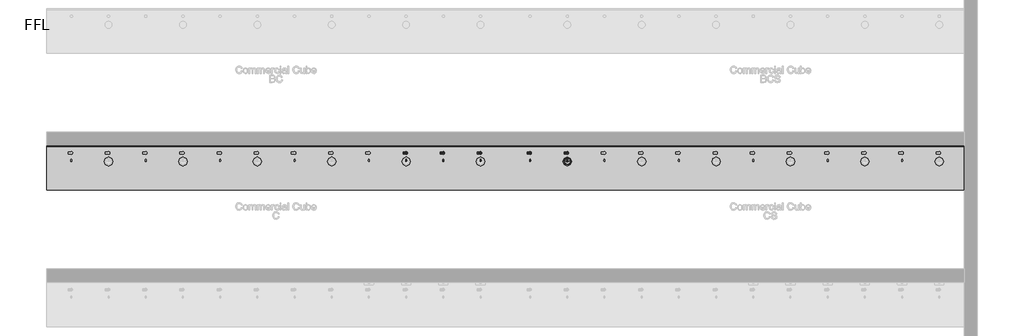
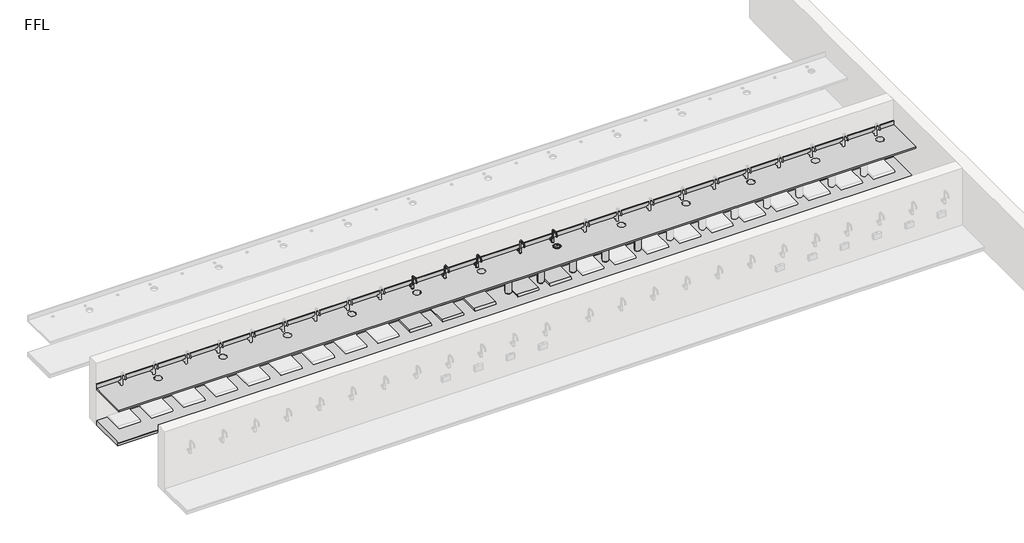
# One storey, part 4 of 14: 21 flow terminals, 2 furniture elements.
"""IFC4 building model written with IfcOpenShell, lengths in millimetres."""

from ifc_helpers import new_model, si_unit, frame, origin, place, context, project, spatial, polyline, circle_curve, transform, mapped, element, save
from ifc_brep_helpers import plane_surface, revolved_surface, advanced_brep
from components import flow_terminal_100_people_nickel_19c471c0, bright_chrome_cb32e6d9, bright_chrome_743c02cf, co2_gas_cylinder_20234e14, bcs_and_bc_6de74493, generic_plinth_900mm_f287d53f

model = new_model("IFC4")

# Units and contexts
model_context = context("Model", 3, world=origin())
ifc_project = project(units=[si_unit("LENGTHUNIT", "METRE", prefix="MILLI")], contexts=[model_context])

# Site, building, storey
site = spatial("IfcSite", under=ifc_project)
building = spatial("IfcBuilding", under=site)
storey = spatial("IfcBuildingStorey", under=building, Name="FFL", Elevation=0.0)

# Flow terminals
placement = place(None, origin())
flow_terminal_100_people_nickel_shape = flow_terminal_100_people_nickel_19c471c0(model_context)
element("IfcFlowTerminal", 1, ObjectType="PlumFixt_Zip Commercial_Cube_CS : 100 People - Bright Chrome", at=placement, inside=storey, context=model_context, shape_type="MappedRepresentation", body=[
    mapped(flow_terminal_100_people_nickel_shape, transform((2779.2647071, 2062.7393304, 0.0), x_axis=(1.0, 0.0, 0.0), y_axis=(0.0, 1.0, 0.0), z_axis=(0.0, 0.0, 1.0))),
])
element("IfcFlowTerminal", 2, ObjectType="PlumFixt_Zip Commercial_Cube_CS : 100 People - Brushed Chrome", at=placement, inside=storey, context=model_context, shape_type="MappedRepresentation", body=[
    mapped(flow_terminal_100_people_nickel_shape, transform((3529.2647071, 2062.7393304, 0.0), x_axis=(1.0, 0.0, 0.0), y_axis=(0.0, 1.0, 0.0), z_axis=(0.0, 0.0, 1.0))),
])
element("IfcFlowTerminal", 3, ObjectType="PlumFixt_Zip Commercial_Cube_C : 100 People - Nickel", at=placement, inside=storey, context=model_context, shape_type="MappedRepresentation", body=[
    mapped(flow_terminal_100_people_nickel_shape, transform((279.2647071, 2062.7393304, 0.0), x_axis=(1.0, 0.0, 0.0), y_axis=(0.0, 1.0, 0.0), z_axis=(0.0, 0.0, 1.0))),
])
element("IfcFlowTerminal", 4, ObjectType="PlumFixt_Zip Commercial_Cube_C : 100 People - Platinum", at=placement, inside=storey, context=model_context, shape_type="MappedRepresentation", body=[
    mapped(flow_terminal_100_people_nickel_shape, transform((1029.2647071, 2062.7393304, 0.0), x_axis=(1.0, 0.0, 0.0), y_axis=(0.0, 1.0, 0.0), z_axis=(0.0, 0.0, 1.0))),
])
element("IfcFlowTerminal", 5, ObjectType="PlumFixt_Zip Commercial_Cube_C : 100 People - Rose Gold", at=placement, inside=storey, context=model_context, shape_type="MappedRepresentation", body=[
    mapped(flow_terminal_100_people_nickel_shape, transform((1779.2647071, 2062.7393304, 0.0), x_axis=(1.0, 0.0, 0.0), y_axis=(0.0, 1.0, 0.0), z_axis=(0.0, 0.0, 1.0))),
])
bright_chrome_shape = bright_chrome_cb32e6d9(model_context)
element("IfcFlowTerminal", 6, ObjectType="z_PlumFixt_Zip_Cube : Bright Chrome", at=placement, inside=storey, context=model_context, shape_type="MappedRepresentation", body=[
    mapped(bright_chrome_shape, transform((2762.2647071, 2090.7393304, 900.0), x_axis=(1.0000000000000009, 0.0, 0.0), y_axis=(0.0, 1.0000000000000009, 0.0), z_axis=(0.0, 0.0, 1.0))),
])
bright_chrome_2_shape = bright_chrome_743c02cf(model_context)
element("IfcFlowTerminal", 7, ObjectType="z_PlumFixt_Zip_Font : Brushed Chrome", at=placement, inside=storey, context=model_context, shape_type="MappedRepresentation", body=[
    mapped(bright_chrome_2_shape, transform((3529.2647071, 1991.2393304, 900.0), x_axis=(1.0000000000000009, 0.0, 0.0), y_axis=(0.0, 1.0000000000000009, 0.0), z_axis=(0.0, 0.0, 1.0))),
])
element("IfcFlowTerminal", 8, ObjectType="z_PlumFixt_Zip_Cube : Brushed Chrome", at=placement, inside=storey, context=model_context, shape_type="MappedRepresentation", body=[
    mapped(bright_chrome_shape, transform((3512.2647071, 2090.7393304, 900.0), x_axis=(1.0000000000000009, 0.0, 0.0), y_axis=(0.0, 1.0000000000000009, 0.0), z_axis=(0.0, 0.0, 1.0))),
])
co2_gas_cylinder_shape = co2_gas_cylinder_20234e14(model_context)
element("IfcFlowTerminal", 9, ObjectType="z_PlumFixt_Zip_CO2 Gas Cylinder : CO2 Gas Cylinder", at=placement, inside=storey, context=model_context, shape_type="MappedRepresentation", body=[
    mapped(co2_gas_cylinder_shape, transform((2441.2647071, 1983.2393304, 100.0), x_axis=(-1.0, 0.0, 0.0), y_axis=(0.0, -1.0, 0.0), z_axis=(0.0, 0.0, 1.0))),
])
element("IfcFlowTerminal", 10, ObjectType="z_PlumFixt_Zip_CO2 Gas Cylinder : CO2 Gas Cylinder", at=placement, inside=storey, context=model_context, shape_type="MappedRepresentation", body=[
    mapped(co2_gas_cylinder_shape, transform((3191.2647071, 1983.2393304, 100.0), x_axis=(-1.0, 0.0, 0.0), y_axis=(0.0, -1.0, 0.0), z_axis=(0.0, 0.0, 1.0))),
])
element("IfcFlowTerminal", 11, ObjectType="z_PlumFixt_Zip_CO2 Gas Cylinder : CO2 Gas Cylinder", at=placement, inside=storey, context=model_context, shape_type="MappedRepresentation", body=[
    mapped(co2_gas_cylinder_shape, transform((3941.2647071, 1983.2393304, 100.0), x_axis=(-1.0, 0.0, 0.0), y_axis=(0.0, -1.0, 0.0), z_axis=(0.0, 0.0, 1.0))),
])
element("IfcFlowTerminal", 12, ObjectType="z_PlumFixt_Zip_CO2 Gas Cylinder : CO2 Gas Cylinder", at=placement, inside=storey, context=model_context, shape_type="MappedRepresentation", body=[
    mapped(co2_gas_cylinder_shape, transform((4691.2647071, 1983.2393304, 100.0), x_axis=(-1.0, 0.0, 0.0), y_axis=(0.0, -1.0, 0.0), z_axis=(0.0, 0.0, 1.0))),
])
element("IfcFlowTerminal", 13, ObjectType="z_PlumFixt_Zip_CO2 Gas Cylinder : CO2 Gas Cylinder", at=placement, inside=storey, context=model_context, shape_type="MappedRepresentation", body=[
    mapped(co2_gas_cylinder_shape, transform((5441.2647071, 1983.2393304, 100.0), x_axis=(-1.0, 0.0, 0.0), y_axis=(0.0, -1.0, 0.0), z_axis=(0.0, 0.0, 1.0))),
])
bcs_and_bc_shape = bcs_and_bc_6de74493(model_context)
element("IfcFlowTerminal", 14, ObjectType="z_PlumFixt_Zip_Vent Tray : CS and C", at=placement, inside=storey, context=model_context, shape_type="MappedRepresentation", body=[
    mapped(bcs_and_bc_shape, transform((279.2647071, 2185.7393304, 100.0), x_axis=(1.0, 0.0, 0.0), y_axis=(0.0, 1.0, 0.0), z_axis=(0.0, 0.0, 1.0))),
])
element("IfcFlowTerminal", 15, ObjectType="z_PlumFixt_Zip_Vent Tray : CS and C", at=placement, inside=storey, context=model_context, shape_type="MappedRepresentation", body=[
    mapped(bcs_and_bc_shape, transform((1029.2647071, 2185.7393304, 100.0), x_axis=(1.0, 0.0, 0.0), y_axis=(0.0, 1.0, 0.0), z_axis=(0.0, 0.0, 1.0))),
])
element("IfcFlowTerminal", 16, ObjectType="z_PlumFixt_Zip_Vent Tray : CS and C", at=placement, inside=storey, context=model_context, shape_type="MappedRepresentation", body=[
    mapped(bcs_and_bc_shape, transform((1779.2647071, 2185.7393304, 100.0), x_axis=(1.0, 0.0, 0.0), y_axis=(0.0, 1.0, 0.0), z_axis=(0.0, 0.0, 1.0))),
])
element("IfcFlowTerminal", 17, ObjectType="z_PlumFixt_Zip_Vent Tray : CS and C", at=placement, inside=storey, context=model_context, shape_type="MappedRepresentation", body=[
    mapped(bcs_and_bc_shape, transform((2779.2647071, 2185.7393304, 100.0), x_axis=(1.0, 0.0, 0.0), y_axis=(0.0, 1.0, 0.0), z_axis=(0.0, 0.0, 1.0))),
])
element("IfcFlowTerminal", 18, ObjectType="z_PlumFixt_Zip_Vent Tray : CS and C", at=placement, inside=storey, context=model_context, shape_type="MappedRepresentation", body=[
    mapped(bcs_and_bc_shape, transform((3529.2647071, 2185.7393304, 100.0), x_axis=(1.0, 0.0, 0.0), y_axis=(0.0, 1.0, 0.0), z_axis=(0.0, 0.0, 1.0))),
])
element("IfcFlowTerminal", 19, ObjectType="z_PlumFixt_Zip_Cube : Nickel", at=placement, inside=storey, context=model_context, shape_type="MappedRepresentation", body=[
    mapped(bright_chrome_shape, transform((262.2647071, 2090.7393304, 900.0), x_axis=(1.0000000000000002, 0.0, 0.0), y_axis=(0.0, 1.0000000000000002, 0.0), z_axis=(0.0, 0.0, 1.0))),
])
element("IfcFlowTerminal", 20, ObjectType="z_PlumFixt_Zip_Cube : Platinum", at=placement, inside=storey, context=model_context, shape_type="MappedRepresentation", body=[
    mapped(bright_chrome_shape, transform((1012.2647071, 2090.7393304, 900.0), x_axis=(1.0000000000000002, 0.0, 0.0), y_axis=(0.0, 1.0000000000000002, 0.0), z_axis=(0.0, 0.0, 1.0))),
])
element("IfcFlowTerminal", 21, ObjectType="z_PlumFixt_Zip_Cube : Rose Gold", at=placement, inside=storey, context=model_context, shape_type="MappedRepresentation", body=[
    mapped(bright_chrome_shape, transform((1762.2647071, 2090.7393304, 900.0), x_axis=(1.0000000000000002, 0.0, 0.0), y_axis=(0.0, 1.0000000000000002, 0.0), z_axis=(0.0, 0.0, 1.0))),
])

# Furniture
element("IfcFurniture", 22, ObjectType="Counter Top : 900mm Depth", at=placement, inside=storey, context=model_context, shape_type="AdvancedBrep", body=[
    advanced_brep(
    [(-6969.7352929, 1428.2393304, 900.0), (11530.2647071, 1428.2393304, 900.0), (11530.2647071, 2309.1893304, 900.0), (-6969.7352929, 2309.1893304, 900.0), (-6493.7352929, 2178.2393304, 900.0), (-6445.7352929, 2178.2393304, 900.0), (-5743.7352929, 2178.2393304, 900.0), (-5695.7352929, 2178.2393304, 900.0), (-5787.9352929, 2006.2393304, 900.0), (-5651.5352929, 2006.2393304, 900.0), (-4993.7352929, 2178.2393304, 900.0), (-4945.7352929, 2178.2393304, 900.0), (-4243.7352929, 2178.2393304, 900.0), (-4195.7352929, 2178.2393304, 900.0), (-4287.9352929, 2006.2393304, 900.0), (-4151.5352929, 2006.2393304, 900.0), (-3493.7352929, 2178.2393304, 900.0), (-3445.7352929, 2178.2393304, 900.0), (-2743.7352929, 2178.2393304, 900.0), (-2695.7352929, 2178.2393304, 900.0), (-2787.9352929, 2006.2393304, 900.0), (-2651.5352929, 2006.2393304, 900.0), (-1993.7352929, 2178.2393304, 900.0), (-1945.7352929, 2178.2393304, 900.0), (-1243.7352929, 2178.2393304, 900.0), (-1195.7352929, 2178.2393304, 900.0), (-1287.9352929, 2006.2393304, 900.0), (-1151.5352929, 2006.2393304, 900.0), (-493.7352929, 2178.2393304, 900.0), (-445.7352929, 2178.2393304, 900.0), (256.2647071, 2178.2393304, 900.0), (304.2647071, 2178.2393304, 900.0), (212.0647071, 2006.2393304, 900.0), (348.4647071, 2006.2393304, 900.0), (1006.2647071, 2178.2393304, 900.0), (1054.2647071, 2178.2393304, 900.0), (1756.2647071, 2178.2393304, 900.0), (1804.2647071, 2178.2393304, 900.0), (1712.0647071, 2006.2393304, 900.0), (1848.4647071, 2006.2393304, 900.0), (2756.2647071, 2178.2393304, 900.0), (2804.2647071, 2178.2393304, 900.0), (3506.2647071, 2178.2393304, 900.0), (3554.2647071, 2178.2393304, 900.0), (3462.0647071, 2006.2393304, 900.0), (3598.4647071, 2006.2393304, 900.0), (4256.2647071, 2178.2393304, 900.0), (4304.2647071, 2178.2393304, 900.0), (5006.2647071, 2178.2393304, 900.0), (5054.2647071, 2178.2393304, 900.0), (4962.0647071, 2006.2393304, 900.0), (5098.4647071, 2006.2393304, 900.0), (5756.2647071, 2178.2393304, 900.0), (5804.2647071, 2178.2393304, 900.0), (6506.2647071, 2178.2393304, 900.0), (6554.2647071, 2178.2393304, 900.0), (6462.0647071, 2006.2393304, 900.0), (6598.4647071, 2006.2393304, 900.0), (7256.2647071, 2178.2393304, 900.0), (7304.2647071, 2178.2393304, 900.0), (8006.2647071, 2178.2393304, 900.0), (8054.2647071, 2178.2393304, 900.0), (7962.0647071, 2006.2393304, 900.0), (8098.4647071, 2006.2393304, 900.0), (8756.2647071, 2178.2393304, 900.0), (8804.2647071, 2178.2393304, 900.0), (9506.2647071, 2178.2393304, 900.0), (9554.2647071, 2178.2393304, 900.0), (9462.0647071, 2006.2393304, 900.0), (9598.4647071, 2006.2393304, 900.0), (10256.2647071, 2178.2393304, 900.0), (10304.2647071, 2178.2393304, 900.0), (11006.2647071, 2178.2393304, 900.0), (11054.2647071, 2178.2393304, 900.0), (10962.0647071, 2006.2393304, 900.0), (11098.4647071, 2006.2393304, 900.0), (11530.2647071, 2328.2393304, 860.0), (11530.2647071, 1428.2393304, 860.0), (-6969.7352929, 1428.2393304, 860.0), (-6969.7352929, 2328.2393304, 860.0), (-6445.7352929, 2178.2393304, 860.0), (-6493.7352929, 2178.2393304, 860.0), (-5695.7352929, 2178.2393304, 860.0), (-5743.7352929, 2178.2393304, 860.0), (-5651.5352929, 2006.2393304, 860.0), (-5787.9352929, 2006.2393304, 860.0), (-4945.7352929, 2178.2393304, 860.0), (-4993.7352929, 2178.2393304, 860.0), (-4195.7352929, 2178.2393304, 860.0), (-4243.7352929, 2178.2393304, 860.0), (-4151.5352929, 2006.2393304, 860.0), (-4287.9352929, 2006.2393304, 860.0), (-3445.7352929, 2178.2393304, 860.0), (-3493.7352929, 2178.2393304, 860.0), (-2695.7352929, 2178.2393304, 860.0), (-2743.7352929, 2178.2393304, 860.0), (-2651.5352929, 2006.2393304, 860.0), (-2787.9352929, 2006.2393304, 860.0), (-1945.7352929, 2178.2393304, 860.0), (-1993.7352929, 2178.2393304, 860.0), (-1195.7352929, 2178.2393304, 860.0), (-1243.7352929, 2178.2393304, 860.0), (-1151.5352929, 2006.2393304, 860.0), (-1287.9352929, 2006.2393304, 860.0), (-445.7352929, 2178.2393304, 860.0), (-493.7352929, 2178.2393304, 860.0), (304.2647071, 2178.2393304, 860.0), (256.2647071, 2178.2393304, 860.0), (348.4647071, 2006.2393304, 860.0), (212.0647071, 2006.2393304, 860.0), (1054.2647071, 2178.2393304, 860.0), (1006.2647071, 2178.2393304, 860.0), (1804.2647071, 2178.2393304, 860.0), (1756.2647071, 2178.2393304, 860.0), (1848.4647071, 2006.2393304, 860.0), (1712.0647071, 2006.2393304, 860.0), (2804.2647071, 2178.2393304, 860.0), (2756.2647071, 2178.2393304, 860.0), (3554.2647071, 2178.2393304, 860.0), (3506.2647071, 2178.2393304, 860.0), (3598.4647071, 2006.2393304, 860.0), (3462.0647071, 2006.2393304, 860.0), (4304.2647071, 2178.2393304, 860.0), (4256.2647071, 2178.2393304, 860.0), (5054.2647071, 2178.2393304, 860.0), (5006.2647071, 2178.2393304, 860.0), (5098.4647071, 2006.2393304, 860.0), (4962.0647071, 2006.2393304, 860.0), (5804.2647071, 2178.2393304, 860.0), (5756.2647071, 2178.2393304, 860.0), (6554.2647071, 2178.2393304, 860.0), (6506.2647071, 2178.2393304, 860.0), (6598.4647071, 2006.2393304, 860.0), (6462.0647071, 2006.2393304, 860.0), (7304.2647071, 2178.2393304, 860.0), (7256.2647071, 2178.2393304, 860.0), (8054.2647071, 2178.2393304, 860.0), (8006.2647071, 2178.2393304, 860.0), (8098.4647071, 2006.2393304, 860.0), (7962.0647071, 2006.2393304, 860.0), (8804.2647071, 2178.2393304, 860.0), (8756.2647071, 2178.2393304, 860.0), (9554.2647071, 2178.2393304, 860.0), (9506.2647071, 2178.2393304, 860.0), (9598.4647071, 2006.2393304, 860.0), (9462.0647071, 2006.2393304, 860.0), (10304.2647071, 2178.2393304, 860.0), (10256.2647071, 2178.2393304, 860.0), (11054.2647071, 2178.2393304, 860.0), (11006.2647071, 2178.2393304, 860.0), (11098.4647071, 2006.2393304, 860.0), (10962.0647071, 2006.2393304, 860.0), (-6969.7352929, 2328.2393304, 1001.6), (11530.2647071, 2328.2393304, 1001.6), (-6969.7352929, 2309.1893304, 1001.6), (11530.2647071, 2309.1893304, 1001.6)],
    [
        (0, 1),
        (1, 2),
        (2, 3),
        (3, 0),
        (4, 5, circle_curve(frame((-6469.7352929, 2178.2393304, 900.0), z_axis=(0.0, 0.0, -1.0), x_axis=(-1.0000000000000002, 0.0, 0.0)), 24.0)),
        (5, 4, circle_curve(frame((-6469.7352929, 2178.2393304, 900.0), z_axis=(0.0, 0.0, -1.0), x_axis=(-1.0000000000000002, 0.0, 0.0)), 24.0)),
        (6, 7, circle_curve(frame((-5719.7352929, 2178.2393304, 900.0), z_axis=(0.0, 0.0, -1.0), x_axis=(-1.0000000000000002, 0.0, 0.0)), 24.0)),
        (7, 6, circle_curve(frame((-5719.7352929, 2178.2393304, 900.0), z_axis=(0.0, 0.0, -1.0), x_axis=(-1.0000000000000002, 0.0, 0.0)), 24.0)),
        (8, 9, circle_curve(frame((-5719.7352929, 2006.2393304, 900.0), z_axis=(0.0, 0.0, -1.0), x_axis=(-1.0000000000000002, 0.0, 0.0)), 68.2)),
        (9, 8, circle_curve(frame((-5719.7352929, 2006.2393304, 900.0), z_axis=(0.0, 0.0, -1.0), x_axis=(-1.0000000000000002, 0.0, 0.0)), 68.2)),
        (10, 11, circle_curve(frame((-4969.7352929, 2178.2393304, 900.0), z_axis=(0.0, 0.0, -1.0), x_axis=(-1.0000000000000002, 0.0, 0.0)), 24.0)),
        (11, 10, circle_curve(frame((-4969.7352929, 2178.2393304, 900.0), z_axis=(0.0, 0.0, -1.0), x_axis=(-1.0000000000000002, 0.0, 0.0)), 24.0)),
        (12, 13, circle_curve(frame((-4219.7352929, 2178.2393304, 900.0), z_axis=(0.0, 0.0, -1.0), x_axis=(-1.0000000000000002, 0.0, 0.0)), 24.0)),
        (13, 12, circle_curve(frame((-4219.7352929, 2178.2393304, 900.0), z_axis=(0.0, 0.0, -1.0), x_axis=(-1.0000000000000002, 0.0, 0.0)), 24.0)),
        (14, 15, circle_curve(frame((-4219.7352929, 2006.2393304, 900.0), z_axis=(0.0, 0.0, -1.0), x_axis=(-1.0000000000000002, 0.0, 0.0)), 68.2)),
        (15, 14, circle_curve(frame((-4219.7352929, 2006.2393304, 900.0), z_axis=(0.0, 0.0, -1.0), x_axis=(-1.0000000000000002, 0.0, 0.0)), 68.2)),
        (16, 17, circle_curve(frame((-3469.7352929, 2178.2393304, 900.0), z_axis=(0.0, 0.0, -1.0), x_axis=(-1.0000000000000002, 0.0, 0.0)), 24.0)),
        (17, 16, circle_curve(frame((-3469.7352929, 2178.2393304, 900.0), z_axis=(0.0, 0.0, -1.0), x_axis=(-1.0000000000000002, 0.0, 0.0)), 24.0)),
        (18, 19, circle_curve(frame((-2719.7352929, 2178.2393304, 900.0), z_axis=(0.0, 0.0, -1.0), x_axis=(-1.0000000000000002, 0.0, 0.0)), 24.0)),
        (19, 18, circle_curve(frame((-2719.7352929, 2178.2393304, 900.0), z_axis=(0.0, 0.0, -1.0), x_axis=(-1.0000000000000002, 0.0, 0.0)), 24.0)),
        (20, 21, circle_curve(frame((-2719.7352929, 2006.2393304, 900.0), z_axis=(0.0, 0.0, -1.0), x_axis=(-1.0000000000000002, 0.0, 0.0)), 68.2)),
        (21, 20, circle_curve(frame((-2719.7352929, 2006.2393304, 900.0), z_axis=(0.0, 0.0, -1.0), x_axis=(-1.0000000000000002, 0.0, 0.0)), 68.2)),
        (22, 23, circle_curve(frame((-1969.7352929, 2178.2393304, 900.0), z_axis=(0.0, 0.0, -1.0), x_axis=(-1.0000000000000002, 0.0, 0.0)), 24.0)),
        (23, 22, circle_curve(frame((-1969.7352929, 2178.2393304, 900.0), z_axis=(0.0, 0.0, -1.0), x_axis=(-1.0000000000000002, 0.0, 0.0)), 24.0)),
        (24, 25, circle_curve(frame((-1219.7352929, 2178.2393304, 900.0), z_axis=(0.0, 0.0, -1.0), x_axis=(-1.0000000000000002, 0.0, 0.0)), 24.0)),
        (25, 24, circle_curve(frame((-1219.7352929, 2178.2393304, 900.0), z_axis=(0.0, 0.0, -1.0), x_axis=(-1.0000000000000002, 0.0, 0.0)), 24.0)),
        (26, 27, circle_curve(frame((-1219.7352929, 2006.2393304, 900.0), z_axis=(0.0, 0.0, -1.0), x_axis=(-1.0000000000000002, 0.0, 0.0)), 68.2)),
        (27, 26, circle_curve(frame((-1219.7352929, 2006.2393304, 900.0), z_axis=(0.0, 0.0, -1.0), x_axis=(-1.0000000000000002, 0.0, 0.0)), 68.2)),
        (28, 29, circle_curve(frame((-469.7352929, 2178.2393304, 900.0), z_axis=(0.0, 0.0, -1.0), x_axis=(-1.0000000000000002, 0.0, 0.0)), 24.0)),
        (29, 28, circle_curve(frame((-469.7352929, 2178.2393304, 900.0), z_axis=(0.0, 0.0, -1.0), x_axis=(-1.0000000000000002, 0.0, 0.0)), 24.0)),
        (30, 31, circle_curve(frame((280.2647071, 2178.2393304, 900.0), z_axis=(0.0, 0.0, -1.0), x_axis=(-1.0000000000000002, 0.0, 0.0)), 24.0)),
        (31, 30, circle_curve(frame((280.2647071, 2178.2393304, 900.0), z_axis=(0.0, 0.0, -1.0), x_axis=(-1.0000000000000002, 0.0, 0.0)), 24.0)),
        (32, 33, circle_curve(frame((280.2647071, 2006.2393304, 900.0), z_axis=(0.0, 0.0, -1.0), x_axis=(-1.0000000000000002, 0.0, 0.0)), 68.2)),
        (33, 32, circle_curve(frame((280.2647071, 2006.2393304, 900.0), z_axis=(0.0, 0.0, -1.0), x_axis=(-1.0000000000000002, 0.0, 0.0)), 68.2)),
        (34, 35, circle_curve(frame((1030.2647071, 2178.2393304, 900.0), z_axis=(0.0, 0.0, -1.0), x_axis=(-1.0000000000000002, 0.0, 0.0)), 24.0)),
        (35, 34, circle_curve(frame((1030.2647071, 2178.2393304, 900.0), z_axis=(0.0, 0.0, -1.0), x_axis=(-1.0000000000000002, 0.0, 0.0)), 24.0)),
        (36, 37, circle_curve(frame((1780.2647071, 2178.2393304, 900.0), z_axis=(0.0, 0.0, -1.0), x_axis=(-1.0000000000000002, 0.0, 0.0)), 24.0)),
        (37, 36, circle_curve(frame((1780.2647071, 2178.2393304, 900.0), z_axis=(0.0, 0.0, -1.0), x_axis=(-1.0000000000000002, 0.0, 0.0)), 24.0)),
        (38, 39, circle_curve(frame((1780.2647071, 2006.2393304, 900.0), z_axis=(0.0, 0.0, -1.0), x_axis=(-1.0000000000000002, 0.0, 0.0)), 68.2)),
        (39, 38, circle_curve(frame((1780.2647071, 2006.2393304, 900.0), z_axis=(0.0, 0.0, -1.0), x_axis=(-1.0000000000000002, 0.0, 0.0)), 68.2)),
        (40, 41, circle_curve(frame((2780.2647071, 2178.2393304, 900.0), z_axis=(0.0, 0.0, -1.0), x_axis=(-1.0000000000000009, 0.0, 0.0)), 24.0)),
        (41, 40, circle_curve(frame((2780.2647071, 2178.2393304, 900.0), z_axis=(0.0, 0.0, -1.0), x_axis=(-1.0000000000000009, 0.0, 0.0)), 24.0)),
        (42, 43, circle_curve(frame((3530.2647071, 2178.2393304, 900.0), z_axis=(0.0, 0.0, -1.0), x_axis=(-1.0000000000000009, 0.0, 0.0)), 24.0)),
        (43, 42, circle_curve(frame((3530.2647071, 2178.2393304, 900.0), z_axis=(0.0, 0.0, -1.0), x_axis=(-1.0000000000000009, 0.0, 0.0)), 24.0)),
        (44, 45, circle_curve(frame((3530.2647071, 2006.2393304, 900.0), z_axis=(0.0, 0.0, -1.0), x_axis=(-1.0000000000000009, 0.0, 0.0)), 68.2)),
        (45, 44, circle_curve(frame((3530.2647071, 2006.2393304, 900.0), z_axis=(0.0, 0.0, -1.0), x_axis=(-1.0000000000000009, 0.0, 0.0)), 68.2)),
        (46, 47, circle_curve(frame((4280.2647071, 2178.2393304, 900.0), z_axis=(0.0, 0.0, -1.0), x_axis=(-1.0000000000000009, 0.0, 0.0)), 24.0)),
        (47, 46, circle_curve(frame((4280.2647071, 2178.2393304, 900.0), z_axis=(0.0, 0.0, -1.0), x_axis=(-1.0000000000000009, 0.0, 0.0)), 24.0)),
        (48, 49, circle_curve(frame((5030.2647071, 2178.2393304, 900.0), z_axis=(0.0, 0.0, -1.0), x_axis=(-1.0000000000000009, 0.0, 0.0)), 24.0)),
        (49, 48, circle_curve(frame((5030.2647071, 2178.2393304, 900.0), z_axis=(0.0, 0.0, -1.0), x_axis=(-1.0000000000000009, 0.0, 0.0)), 24.0)),
        (50, 51, circle_curve(frame((5030.2647071, 2006.2393304, 900.0), z_axis=(0.0, 0.0, -1.0), x_axis=(-1.0000000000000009, 0.0, 0.0)), 68.2)),
        (51, 50, circle_curve(frame((5030.2647071, 2006.2393304, 900.0), z_axis=(0.0, 0.0, -1.0), x_axis=(-1.0000000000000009, 0.0, 0.0)), 68.2)),
        (52, 53, circle_curve(frame((5780.2647071, 2178.2393304, 900.0), z_axis=(0.0, 0.0, -1.0), x_axis=(-1.0000000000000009, 0.0, 0.0)), 24.0)),
        (53, 52, circle_curve(frame((5780.2647071, 2178.2393304, 900.0), z_axis=(0.0, 0.0, -1.0), x_axis=(-1.0000000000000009, 0.0, 0.0)), 24.0)),
        (54, 55, circle_curve(frame((6530.2647071, 2178.2393304, 900.0), z_axis=(0.0, 0.0, -1.0), x_axis=(-1.0000000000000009, 0.0, 0.0)), 24.0)),
        (55, 54, circle_curve(frame((6530.2647071, 2178.2393304, 900.0), z_axis=(0.0, 0.0, -1.0), x_axis=(-1.0000000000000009, 0.0, 0.0)), 24.0)),
        (56, 57, circle_curve(frame((6530.2647071, 2006.2393304, 900.0), z_axis=(0.0, 0.0, -1.0), x_axis=(-1.0000000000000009, 0.0, 0.0)), 68.2)),
        (57, 56, circle_curve(frame((6530.2647071, 2006.2393304, 900.0), z_axis=(0.0, 0.0, -1.0), x_axis=(-1.0000000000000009, 0.0, 0.0)), 68.2)),
        (58, 59, circle_curve(frame((7280.2647071, 2178.2393304, 900.0), z_axis=(0.0, 0.0, -1.0), x_axis=(-1.0000000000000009, 0.0, 0.0)), 24.0)),
        (59, 58, circle_curve(frame((7280.2647071, 2178.2393304, 900.0), z_axis=(0.0, 0.0, -1.0), x_axis=(-1.0000000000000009, 0.0, 0.0)), 24.0)),
        (60, 61, circle_curve(frame((8030.2647071, 2178.2393304, 900.0), z_axis=(0.0, 0.0, -1.0), x_axis=(-1.0000000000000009, 0.0, 0.0)), 24.0)),
        (61, 60, circle_curve(frame((8030.2647071, 2178.2393304, 900.0), z_axis=(0.0, 0.0, -1.0), x_axis=(-1.0000000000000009, 0.0, 0.0)), 24.0)),
        (62, 63, circle_curve(frame((8030.2647071, 2006.2393304, 900.0), z_axis=(0.0, 0.0, -1.0), x_axis=(-1.0000000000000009, 0.0, 0.0)), 68.2)),
        (63, 62, circle_curve(frame((8030.2647071, 2006.2393304, 900.0), z_axis=(0.0, 0.0, -1.0), x_axis=(-1.0000000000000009, 0.0, 0.0)), 68.2)),
        (64, 65, circle_curve(frame((8780.2647071, 2178.2393304, 900.0), z_axis=(0.0, 0.0, -1.0), x_axis=(-1.0000000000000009, 0.0, 0.0)), 24.0)),
        (65, 64, circle_curve(frame((8780.2647071, 2178.2393304, 900.0), z_axis=(0.0, 0.0, -1.0), x_axis=(-1.0000000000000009, 0.0, 0.0)), 24.0)),
        (66, 67, circle_curve(frame((9530.2647071, 2178.2393304, 900.0), z_axis=(0.0, 0.0, -1.0), x_axis=(-1.0000000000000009, 0.0, 0.0)), 24.0)),
        (67, 66, circle_curve(frame((9530.2647071, 2178.2393304, 900.0), z_axis=(0.0, 0.0, -1.0), x_axis=(-1.0000000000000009, 0.0, 0.0)), 24.0)),
        (68, 69, circle_curve(frame((9530.2647071, 2006.2393304, 900.0), z_axis=(0.0, 0.0, -1.0), x_axis=(-1.0000000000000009, 0.0, 0.0)), 68.2)),
        (69, 68, circle_curve(frame((9530.2647071, 2006.2393304, 900.0), z_axis=(0.0, 0.0, -1.0), x_axis=(-1.0000000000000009, 0.0, 0.0)), 68.2)),
        (70, 71, circle_curve(frame((10280.2647071, 2178.2393304, 900.0), z_axis=(0.0, 0.0, -1.0), x_axis=(-1.0000000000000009, 0.0, 0.0)), 24.0)),
        (71, 70, circle_curve(frame((10280.2647071, 2178.2393304, 900.0), z_axis=(0.0, 0.0, -1.0), x_axis=(-1.0000000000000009, 0.0, 0.0)), 24.0)),
        (72, 73, circle_curve(frame((11030.2647071, 2178.2393304, 900.0), z_axis=(0.0, 0.0, -1.0), x_axis=(-1.0000000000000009, 0.0, 0.0)), 24.0)),
        (73, 72, circle_curve(frame((11030.2647071, 2178.2393304, 900.0), z_axis=(0.0, 0.0, -1.0), x_axis=(-1.0000000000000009, 0.0, 0.0)), 24.0)),
        (74, 75, circle_curve(frame((11030.2647071, 2006.2393304, 900.0), z_axis=(0.0, 0.0, -1.0), x_axis=(-1.0000000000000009, 0.0, 0.0)), 68.2)),
        (75, 74, circle_curve(frame((11030.2647071, 2006.2393304, 900.0), z_axis=(0.0, 0.0, -1.0), x_axis=(-1.0000000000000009, 0.0, 0.0)), 68.2)),
        (76, 77),
        (77, 78),
        (78, 79),
        (79, 76),
        (80, 81, circle_curve(frame((-6469.7352929, 2178.2393304, 860.0), z_axis=(0.0, 0.0, 1.0), x_axis=(-1.0000000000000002, 0.0, 0.0)), 24.0)),
        (81, 80, circle_curve(frame((-6469.7352929, 2178.2393304, 860.0), z_axis=(0.0, 0.0, 1.0), x_axis=(-1.0000000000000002, 0.0, 0.0)), 24.0)),
        (82, 83, circle_curve(frame((-5719.7352929, 2178.2393304, 860.0), z_axis=(0.0, 0.0, 1.0), x_axis=(-1.0000000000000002, 0.0, 0.0)), 24.0)),
        (83, 82, circle_curve(frame((-5719.7352929, 2178.2393304, 860.0), z_axis=(0.0, 0.0, 1.0), x_axis=(-1.0000000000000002, 0.0, 0.0)), 24.0)),
        (84, 85, circle_curve(frame((-5719.7352929, 2006.2393304, 860.0), z_axis=(0.0, 0.0, 1.0), x_axis=(-1.0000000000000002, 0.0, 0.0)), 68.2)),
        (85, 84, circle_curve(frame((-5719.7352929, 2006.2393304, 860.0), z_axis=(0.0, 0.0, 1.0), x_axis=(-1.0000000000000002, 0.0, 0.0)), 68.2)),
        (86, 87, circle_curve(frame((-4969.7352929, 2178.2393304, 860.0), z_axis=(0.0, 0.0, 1.0), x_axis=(-1.0000000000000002, 0.0, 0.0)), 24.0)),
        (87, 86, circle_curve(frame((-4969.7352929, 2178.2393304, 860.0), z_axis=(0.0, 0.0, 1.0), x_axis=(-1.0000000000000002, 0.0, 0.0)), 24.0)),
        (88, 89, circle_curve(frame((-4219.7352929, 2178.2393304, 860.0), z_axis=(0.0, 0.0, 1.0), x_axis=(-1.0000000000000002, 0.0, 0.0)), 24.0)),
        (89, 88, circle_curve(frame((-4219.7352929, 2178.2393304, 860.0), z_axis=(0.0, 0.0, 1.0), x_axis=(-1.0000000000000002, 0.0, 0.0)), 24.0)),
        (90, 91, circle_curve(frame((-4219.7352929, 2006.2393304, 860.0), z_axis=(0.0, 0.0, 1.0), x_axis=(-1.0000000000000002, 0.0, 0.0)), 68.2)),
        (91, 90, circle_curve(frame((-4219.7352929, 2006.2393304, 860.0), z_axis=(0.0, 0.0, 1.0), x_axis=(-1.0000000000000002, 0.0, 0.0)), 68.2)),
        (92, 93, circle_curve(frame((-3469.7352929, 2178.2393304, 860.0), z_axis=(0.0, 0.0, 1.0), x_axis=(-1.0000000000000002, 0.0, 0.0)), 24.0)),
        (93, 92, circle_curve(frame((-3469.7352929, 2178.2393304, 860.0), z_axis=(0.0, 0.0, 1.0), x_axis=(-1.0000000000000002, 0.0, 0.0)), 24.0)),
        (94, 95, circle_curve(frame((-2719.7352929, 2178.2393304, 860.0), z_axis=(0.0, 0.0, 1.0), x_axis=(-1.0000000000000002, 0.0, 0.0)), 24.0)),
        (95, 94, circle_curve(frame((-2719.7352929, 2178.2393304, 860.0), z_axis=(0.0, 0.0, 1.0), x_axis=(-1.0000000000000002, 0.0, 0.0)), 24.0)),
        (96, 97, circle_curve(frame((-2719.7352929, 2006.2393304, 860.0), z_axis=(0.0, 0.0, 1.0), x_axis=(-1.0000000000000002, 0.0, 0.0)), 68.2)),
        (97, 96, circle_curve(frame((-2719.7352929, 2006.2393304, 860.0), z_axis=(0.0, 0.0, 1.0), x_axis=(-1.0000000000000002, 0.0, 0.0)), 68.2)),
        (98, 99, circle_curve(frame((-1969.7352929, 2178.2393304, 860.0), z_axis=(0.0, 0.0, 1.0), x_axis=(-1.0000000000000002, 0.0, 0.0)), 24.0)),
        (99, 98, circle_curve(frame((-1969.7352929, 2178.2393304, 860.0), z_axis=(0.0, 0.0, 1.0), x_axis=(-1.0000000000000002, 0.0, 0.0)), 24.0)),
        (100, 101, circle_curve(frame((-1219.7352929, 2178.2393304, 860.0), z_axis=(0.0, 0.0, 1.0), x_axis=(-1.0000000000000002, 0.0, 0.0)), 24.0)),
        (101, 100, circle_curve(frame((-1219.7352929, 2178.2393304, 860.0), z_axis=(0.0, 0.0, 1.0), x_axis=(-1.0000000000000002, 0.0, 0.0)), 24.0)),
        (102, 103, circle_curve(frame((-1219.7352929, 2006.2393304, 860.0), z_axis=(0.0, 0.0, 1.0), x_axis=(-1.0000000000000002, 0.0, 0.0)), 68.2)),
        (103, 102, circle_curve(frame((-1219.7352929, 2006.2393304, 860.0), z_axis=(0.0, 0.0, 1.0), x_axis=(-1.0000000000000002, 0.0, 0.0)), 68.2)),
        (104, 105, circle_curve(frame((-469.7352929, 2178.2393304, 860.0), z_axis=(0.0, 0.0, 1.0), x_axis=(-1.0000000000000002, 0.0, 0.0)), 24.0)),
        (105, 104, circle_curve(frame((-469.7352929, 2178.2393304, 860.0), z_axis=(0.0, 0.0, 1.0), x_axis=(-1.0000000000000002, 0.0, 0.0)), 24.0)),
        (106, 107, circle_curve(frame((280.2647071, 2178.2393304, 860.0), z_axis=(0.0, 0.0, 1.0), x_axis=(-1.0000000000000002, 0.0, 0.0)), 24.0)),
        (107, 106, circle_curve(frame((280.2647071, 2178.2393304, 860.0), z_axis=(0.0, 0.0, 1.0), x_axis=(-1.0000000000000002, 0.0, 0.0)), 24.0)),
        (108, 109, circle_curve(frame((280.2647071, 2006.2393304, 860.0), z_axis=(0.0, 0.0, 1.0), x_axis=(-1.0000000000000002, 0.0, 0.0)), 68.2)),
        (109, 108, circle_curve(frame((280.2647071, 2006.2393304, 860.0), z_axis=(0.0, 0.0, 1.0), x_axis=(-1.0000000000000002, 0.0, 0.0)), 68.2)),
        (110, 111, circle_curve(frame((1030.2647071, 2178.2393304, 860.0), z_axis=(0.0, 0.0, 1.0), x_axis=(-1.0000000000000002, 0.0, 0.0)), 24.0)),
        (111, 110, circle_curve(frame((1030.2647071, 2178.2393304, 860.0), z_axis=(0.0, 0.0, 1.0), x_axis=(-1.0000000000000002, 0.0, 0.0)), 24.0)),
        (112, 113, circle_curve(frame((1780.2647071, 2178.2393304, 860.0), z_axis=(0.0, 0.0, 1.0), x_axis=(-1.0000000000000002, 0.0, 0.0)), 24.0)),
        (113, 112, circle_curve(frame((1780.2647071, 2178.2393304, 860.0), z_axis=(0.0, 0.0, 1.0), x_axis=(-1.0000000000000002, 0.0, 0.0)), 24.0)),
        (114, 115, circle_curve(frame((1780.2647071, 2006.2393304, 860.0), z_axis=(0.0, 0.0, 1.0), x_axis=(-1.0000000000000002, 0.0, 0.0)), 68.2)),
        (115, 114, circle_curve(frame((1780.2647071, 2006.2393304, 860.0), z_axis=(0.0, 0.0, 1.0), x_axis=(-1.0000000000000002, 0.0, 0.0)), 68.2)),
        (116, 117, circle_curve(frame((2780.2647071, 2178.2393304, 860.0), z_axis=(0.0, 0.0, 1.0), x_axis=(-1.0000000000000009, 0.0, 0.0)), 24.0)),
        (117, 116, circle_curve(frame((2780.2647071, 2178.2393304, 860.0), z_axis=(0.0, 0.0, 1.0), x_axis=(-1.0000000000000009, 0.0, 0.0)), 24.0)),
        (118, 119, circle_curve(frame((3530.2647071, 2178.2393304, 860.0), z_axis=(0.0, 0.0, 1.0), x_axis=(-1.0000000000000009, 0.0, 0.0)), 24.0)),
        (119, 118, circle_curve(frame((3530.2647071, 2178.2393304, 860.0), z_axis=(0.0, 0.0, 1.0), x_axis=(-1.0000000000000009, 0.0, 0.0)), 24.0)),
        (120, 121, circle_curve(frame((3530.2647071, 2006.2393304, 860.0), z_axis=(0.0, 0.0, 1.0), x_axis=(-1.0000000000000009, 0.0, 0.0)), 68.2)),
        (121, 120, circle_curve(frame((3530.2647071, 2006.2393304, 860.0), z_axis=(0.0, 0.0, 1.0), x_axis=(-1.0000000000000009, 0.0, 0.0)), 68.2)),
        (122, 123, circle_curve(frame((4280.2647071, 2178.2393304, 860.0), z_axis=(0.0, 0.0, 1.0), x_axis=(-1.0000000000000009, 0.0, 0.0)), 24.0)),
        (123, 122, circle_curve(frame((4280.2647071, 2178.2393304, 860.0), z_axis=(0.0, 0.0, 1.0), x_axis=(-1.0000000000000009, 0.0, 0.0)), 24.0)),
        (124, 125, circle_curve(frame((5030.2647071, 2178.2393304, 860.0), z_axis=(0.0, 0.0, 1.0), x_axis=(-1.0000000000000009, 0.0, 0.0)), 24.0)),
        (125, 124, circle_curve(frame((5030.2647071, 2178.2393304, 860.0), z_axis=(0.0, 0.0, 1.0), x_axis=(-1.0000000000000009, 0.0, 0.0)), 24.0)),
        (126, 127, circle_curve(frame((5030.2647071, 2006.2393304, 860.0), z_axis=(0.0, 0.0, 1.0), x_axis=(-1.0000000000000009, 0.0, 0.0)), 68.2)),
        (127, 126, circle_curve(frame((5030.2647071, 2006.2393304, 860.0), z_axis=(0.0, 0.0, 1.0), x_axis=(-1.0000000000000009, 0.0, 0.0)), 68.2)),
        (128, 129, circle_curve(frame((5780.2647071, 2178.2393304, 860.0), z_axis=(0.0, 0.0, 1.0), x_axis=(-1.0000000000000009, 0.0, 0.0)), 24.0)),
        (129, 128, circle_curve(frame((5780.2647071, 2178.2393304, 860.0), z_axis=(0.0, 0.0, 1.0), x_axis=(-1.0000000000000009, 0.0, 0.0)), 24.0)),
        (130, 131, circle_curve(frame((6530.2647071, 2178.2393304, 860.0), z_axis=(0.0, 0.0, 1.0), x_axis=(-1.0000000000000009, 0.0, 0.0)), 24.0)),
        (131, 130, circle_curve(frame((6530.2647071, 2178.2393304, 860.0), z_axis=(0.0, 0.0, 1.0), x_axis=(-1.0000000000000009, 0.0, 0.0)), 24.0)),
        (132, 133, circle_curve(frame((6530.2647071, 2006.2393304, 860.0), z_axis=(0.0, 0.0, 1.0), x_axis=(-1.0000000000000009, 0.0, 0.0)), 68.2)),
        (133, 132, circle_curve(frame((6530.2647071, 2006.2393304, 860.0), z_axis=(0.0, 0.0, 1.0), x_axis=(-1.0000000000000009, 0.0, 0.0)), 68.2)),
        (134, 135, circle_curve(frame((7280.2647071, 2178.2393304, 860.0), z_axis=(0.0, 0.0, 1.0), x_axis=(-1.0000000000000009, 0.0, 0.0)), 24.0)),
        (135, 134, circle_curve(frame((7280.2647071, 2178.2393304, 860.0), z_axis=(0.0, 0.0, 1.0), x_axis=(-1.0000000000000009, 0.0, 0.0)), 24.0)),
        (136, 137, circle_curve(frame((8030.2647071, 2178.2393304, 860.0), z_axis=(0.0, 0.0, 1.0), x_axis=(-1.0000000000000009, 0.0, 0.0)), 24.0)),
        (137, 136, circle_curve(frame((8030.2647071, 2178.2393304, 860.0), z_axis=(0.0, 0.0, 1.0), x_axis=(-1.0000000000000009, 0.0, 0.0)), 24.0)),
        (138, 139, circle_curve(frame((8030.2647071, 2006.2393304, 860.0), z_axis=(0.0, 0.0, 1.0), x_axis=(-1.0000000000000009, 0.0, 0.0)), 68.2)),
        (139, 138, circle_curve(frame((8030.2647071, 2006.2393304, 860.0), z_axis=(0.0, 0.0, 1.0), x_axis=(-1.0000000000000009, 0.0, 0.0)), 68.2)),
        (140, 141, circle_curve(frame((8780.2647071, 2178.2393304, 860.0), z_axis=(0.0, 0.0, 1.0), x_axis=(-1.0000000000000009, 0.0, 0.0)), 24.0)),
        (141, 140, circle_curve(frame((8780.2647071, 2178.2393304, 860.0), z_axis=(0.0, 0.0, 1.0), x_axis=(-1.0000000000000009, 0.0, 0.0)), 24.0)),
        (142, 143, circle_curve(frame((9530.2647071, 2178.2393304, 860.0), z_axis=(0.0, 0.0, 1.0), x_axis=(-1.0000000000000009, 0.0, 0.0)), 24.0)),
        (143, 142, circle_curve(frame((9530.2647071, 2178.2393304, 860.0), z_axis=(0.0, 0.0, 1.0), x_axis=(-1.0000000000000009, 0.0, 0.0)), 24.0)),
        (144, 145, circle_curve(frame((9530.2647071, 2006.2393304, 860.0), z_axis=(0.0, 0.0, 1.0), x_axis=(-1.0000000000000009, 0.0, 0.0)), 68.2)),
        (145, 144, circle_curve(frame((9530.2647071, 2006.2393304, 860.0), z_axis=(0.0, 0.0, 1.0), x_axis=(-1.0000000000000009, 0.0, 0.0)), 68.2)),
        (146, 147, circle_curve(frame((10280.2647071, 2178.2393304, 860.0), z_axis=(0.0, 0.0, 1.0), x_axis=(-1.0000000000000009, 0.0, 0.0)), 24.0)),
        (147, 146, circle_curve(frame((10280.2647071, 2178.2393304, 860.0), z_axis=(0.0, 0.0, 1.0), x_axis=(-1.0000000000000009, 0.0, 0.0)), 24.0)),
        (148, 149, circle_curve(frame((11030.2647071, 2178.2393304, 860.0), z_axis=(0.0, 0.0, 1.0), x_axis=(-1.0000000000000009, 0.0, 0.0)), 24.0)),
        (149, 148, circle_curve(frame((11030.2647071, 2178.2393304, 860.0), z_axis=(0.0, 0.0, 1.0), x_axis=(-1.0000000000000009, 0.0, 0.0)), 24.0)),
        (150, 151, circle_curve(frame((11030.2647071, 2006.2393304, 860.0), z_axis=(0.0, 0.0, 1.0), x_axis=(-1.0000000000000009, 0.0, 0.0)), 68.2)),
        (151, 150, circle_curve(frame((11030.2647071, 2006.2393304, 860.0), z_axis=(0.0, 0.0, 1.0), x_axis=(-1.0000000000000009, 0.0, 0.0)), 68.2)),
        (79, 152),
        (152, 153),
        (153, 76),
        (3, 154),
        (154, 152),
        (78, 0),
        (77, 1),
        (153, 155),
        (155, 2),
        (154, 155),
        (80, 5),
        (4, 81),
        (82, 7),
        (6, 83),
        (84, 9),
        (8, 85),
        (86, 11),
        (10, 87),
        (88, 13),
        (12, 89),
        (90, 15),
        (14, 91),
        (92, 17),
        (16, 93),
        (94, 19),
        (18, 95),
        (96, 21),
        (20, 97),
        (98, 23),
        (22, 99),
        (100, 25),
        (24, 101),
        (102, 27),
        (26, 103),
        (104, 29),
        (28, 105),
        (106, 31),
        (30, 107),
        (108, 33),
        (32, 109),
        (110, 35),
        (34, 111),
        (112, 37),
        (36, 113),
        (114, 39),
        (38, 115),
        (116, 41),
        (40, 117),
        (118, 43),
        (42, 119),
        (120, 45),
        (44, 121),
        (122, 47),
        (46, 123),
        (124, 49),
        (48, 125),
        (126, 51),
        (50, 127),
        (128, 53),
        (52, 129),
        (130, 55),
        (54, 131),
        (132, 57),
        (56, 133),
        (134, 59),
        (58, 135),
        (136, 61),
        (60, 137),
        (138, 63),
        (62, 139),
        (140, 65),
        (64, 141),
        (142, 67),
        (66, 143),
        (144, 69),
        (68, 145),
        (146, 71),
        (70, 147),
        (148, 73),
        (72, 149),
        (150, 75),
        (74, 151),
    ],
    [
        plane_surface(frame((-6969.7352929, 2328.2393304, 900.0), z_axis=(0.0, 0.0, 1.0), x_axis=(-1.0, 0.0, 0.0))),
        plane_surface(frame((-6969.7352929, 2328.2393304, 860.0), z_axis=(0.0, 0.0, -1.0), x_axis=(1.0, 0.0, 0.0))),
        plane_surface(frame((11530.2647071, 2328.2393304, 900.0), z_axis=(0.0, 1.0, 0.0), x_axis=(0.0, 0.0, -1.0))),
        plane_surface(frame((-6969.7352929, 2328.2393304, 900.0), z_axis=(-1.0, 0.0, 0.0), x_axis=(0.0, 0.0, -1.0))),
        plane_surface(frame((-6969.7352929, 1428.2393304, 900.0), z_axis=(0.0, -1.0, 0.0), x_axis=(0.0, 0.0, -1.0))),
        plane_surface(frame((11530.2647071, 1428.2393304, 900.0), z_axis=(1.0, 0.0, 0.0), x_axis=(0.0, 0.0, -1.0))),
        plane_surface(frame((-6969.7352929, 2328.2393304, 1001.6), z_axis=(0.0, 0.0, 1.0), x_axis=(0.0, -1.0, 0.0))),
        plane_surface(frame((-6969.7352929, 2309.1893304, 1001.6), z_axis=(0.0, -1.0, 0.0), x_axis=(0.0, 0.0, -1.0))),
        revolved_surface(polyline([(-6493.7352929, 2178.2393304, 900.0), (-6493.7352929, 2178.2393304, 860.0)]), (-6469.7352929, 2178.2393304, 850.0), (0.0, 0.0, 1.0)),
        revolved_surface(polyline([(-5743.7352929, 2178.2393304, 900.0), (-5743.7352929, 2178.2393304, 860.0)]), (-5719.7352929, 2178.2393304, 850.0), (0.0, 0.0, 1.0)),
        revolved_surface(polyline([(-5787.9352929, 2006.2393304, 900.0), (-5787.9352929, 2006.2393304, 860.0)]), (-5719.7352929, 2006.2393304, 850.0), (0.0, 0.0, 1.0)),
        revolved_surface(polyline([(-4993.7352929, 2178.2393304, 900.0), (-4993.7352929, 2178.2393304, 860.0)]), (-4969.7352929, 2178.2393304, 850.0), (0.0, 0.0, 1.0)),
        revolved_surface(polyline([(-4243.7352929, 2178.2393304, 900.0), (-4243.7352929, 2178.2393304, 860.0)]), (-4219.7352929, 2178.2393304, 850.0), (0.0, 0.0, 1.0)),
        revolved_surface(polyline([(-4287.9352929, 2006.2393304, 900.0), (-4287.9352929, 2006.2393304, 860.0)]), (-4219.7352929, 2006.2393304, 850.0), (0.0, 0.0, 1.0)),
        revolved_surface(polyline([(-3493.7352929, 2178.2393304, 900.0), (-3493.7352929, 2178.2393304, 860.0)]), (-3469.7352929, 2178.2393304, 850.0), (0.0, 0.0, 1.0)),
        revolved_surface(polyline([(-2743.7352929, 2178.2393304, 900.0), (-2743.7352929, 2178.2393304, 860.0)]), (-2719.7352929, 2178.2393304, 850.0), (0.0, 0.0, 1.0)),
        revolved_surface(polyline([(-2787.9352928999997, 2006.2393304, 900.0), (-2787.9352928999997, 2006.2393304, 860.0)]), (-2719.7352929, 2006.2393304, 850.0), (0.0, 0.0, 1.0)),
        revolved_surface(polyline([(-1993.7352929, 2178.2393304, 900.0), (-1993.7352929, 2178.2393304, 860.0)]), (-1969.7352929, 2178.2393304, 850.0), (0.0, 0.0, 1.0)),
        revolved_surface(polyline([(-1243.7352929, 2178.2393304, 900.0), (-1243.7352929, 2178.2393304, 860.0)]), (-1219.7352929, 2178.2393304, 850.0), (0.0, 0.0, 1.0)),
        revolved_surface(polyline([(-1287.9352929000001, 2006.2393304, 900.0), (-1287.9352929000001, 2006.2393304, 860.0)]), (-1219.7352929, 2006.2393304, 850.0), (0.0, 0.0, 1.0)),
        revolved_surface(polyline([(-493.7352929, 2178.2393304, 900.0), (-493.7352929, 2178.2393304, 860.0)]), (-469.7352929, 2178.2393304, 850.0), (0.0, 0.0, 1.0)),
        revolved_surface(polyline([(256.2647071, 2178.2393304, 900.0), (256.2647071, 2178.2393304, 860.0)]), (280.2647071, 2178.2393304, 850.0), (0.0, 0.0, 1.0)),
        revolved_surface(polyline([(212.0647071, 2006.2393304, 900.0), (212.0647071, 2006.2393304, 860.0)]), (280.2647071, 2006.2393304, 850.0), (0.0, 0.0, 1.0)),
        revolved_surface(polyline([(1006.2647070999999, 2178.2393304, 900.0), (1006.2647070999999, 2178.2393304, 860.0)]), (1030.2647071, 2178.2393304, 850.0), (0.0, 0.0, 1.0)),
        revolved_surface(polyline([(1756.2647071, 2178.2393304, 900.0), (1756.2647071, 2178.2393304, 860.0)]), (1780.2647071, 2178.2393304, 850.0), (0.0, 0.0, 1.0)),
        revolved_surface(polyline([(1712.0647070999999, 2006.2393304, 900.0), (1712.0647070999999, 2006.2393304, 860.0)]), (1780.2647071, 2006.2393304, 850.0), (0.0, 0.0, 1.0)),
        revolved_surface(polyline([(2756.2647071, 2178.2393304, 900.0), (2756.2647071, 2178.2393304, 860.0)]), (2780.2647071, 2178.2393304, 850.0), (0.0, 0.0, 1.0)),
        revolved_surface(polyline([(3506.2647071, 2178.2393304, 900.0), (3506.2647071, 2178.2393304, 860.0)]), (3530.2647071, 2178.2393304, 850.0), (0.0, 0.0, 1.0)),
        revolved_surface(polyline([(3462.0647071, 2006.2393304, 900.0), (3462.0647071, 2006.2393304, 860.0)]), (3530.2647071, 2006.2393304, 850.0), (0.0, 0.0, 1.0)),
        revolved_surface(polyline([(4256.2647071, 2178.2393304, 900.0), (4256.2647071, 2178.2393304, 860.0)]), (4280.2647071, 2178.2393304, 850.0), (0.0, 0.0, 1.0)),
        revolved_surface(polyline([(5006.2647071, 2178.2393304, 900.0), (5006.2647071, 2178.2393304, 860.0)]), (5030.2647071, 2178.2393304, 850.0), (0.0, 0.0, 1.0)),
        revolved_surface(polyline([(4962.0647071, 2006.2393304, 900.0), (4962.0647071, 2006.2393304, 860.0)]), (5030.2647071, 2006.2393304, 850.0), (0.0, 0.0, 1.0)),
        revolved_surface(polyline([(5756.2647071, 2178.2393304, 900.0), (5756.2647071, 2178.2393304, 860.0)]), (5780.2647071, 2178.2393304, 850.0), (0.0, 0.0, 1.0)),
        revolved_surface(polyline([(6506.2647071, 2178.2393304, 900.0), (6506.2647071, 2178.2393304, 860.0)]), (6530.2647071, 2178.2393304, 850.0), (0.0, 0.0, 1.0)),
        revolved_surface(polyline([(6462.0647071, 2006.2393304, 900.0), (6462.0647071, 2006.2393304, 860.0)]), (6530.2647071, 2006.2393304, 850.0), (0.0, 0.0, 1.0)),
        revolved_surface(polyline([(7256.2647071, 2178.2393304, 900.0), (7256.2647071, 2178.2393304, 860.0)]), (7280.2647071, 2178.2393304, 850.0), (0.0, 0.0, 1.0)),
        revolved_surface(polyline([(8006.2647071, 2178.2393304, 900.0), (8006.2647071, 2178.2393304, 860.0)]), (8030.2647071, 2178.2393304, 850.0), (0.0, 0.0, 1.0)),
        revolved_surface(polyline([(7962.0647071, 2006.2393304, 900.0), (7962.0647071, 2006.2393304, 860.0)]), (8030.2647071, 2006.2393304, 850.0), (0.0, 0.0, 1.0)),
        revolved_surface(polyline([(8756.2647071, 2178.2393304, 900.0), (8756.2647071, 2178.2393304, 860.0)]), (8780.2647071, 2178.2393304, 850.0), (0.0, 0.0, 1.0)),
        revolved_surface(polyline([(9506.2647071, 2178.2393304, 900.0), (9506.2647071, 2178.2393304, 860.0)]), (9530.2647071, 2178.2393304, 850.0), (0.0, 0.0, 1.0)),
        revolved_surface(polyline([(9462.064707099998, 2006.2393304, 900.0), (9462.064707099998, 2006.2393304, 860.0)]), (9530.2647071, 2006.2393304, 850.0), (0.0, 0.0, 1.0)),
        revolved_surface(polyline([(10256.2647071, 2178.2393304, 900.0), (10256.2647071, 2178.2393304, 860.0)]), (10280.2647071, 2178.2393304, 850.0), (0.0, 0.0, 1.0)),
        revolved_surface(polyline([(11006.2647071, 2178.2393304, 900.0), (11006.2647071, 2178.2393304, 860.0)]), (11030.2647071, 2178.2393304, 850.0), (0.0, 0.0, 1.0)),
        revolved_surface(polyline([(10962.064707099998, 2006.2393304, 900.0), (10962.064707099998, 2006.2393304, 860.0)]), (11030.2647071, 2006.2393304, 850.0), (0.0, 0.0, 1.0)),
    ],
    [
        (0, [[1, 2, 3, 4], [5, 6], [7, 8], [9, 10], [11, 12], [13, 14], [15, 16], [17, 18], [19, 20], [21, 22], [23, 24], [25, 26], [27, 28], [29, 30], [31, 32], [33, 34], [35, 36], [37, 38], [39, 40], [41, 42], [43, 44], [45, 46], [47, 48], [49, 50], [51, 52], [53, 54], [55, 56], [57, 58], [59, 60], [61, 62], [63, 64], [65, 66], [67, 68], [69, 70], [71, 72], [73, 74], [75, 76]]),
        (1, [[77, 78, 79, 80], [81, 82], [83, 84], [85, 86], [87, 88], [89, 90], [91, 92], [93, 94], [95, 96], [97, 98], [99, 100], [101, 102], [103, 104], [105, 106], [107, 108], [109, 110], [111, 112], [113, 114], [115, 116], [117, 118], [119, 120], [121, 122], [123, 124], [125, 126], [127, 128], [129, 130], [131, 132], [133, 134], [135, 136], [137, 138], [139, 140], [141, 142], [143, 144], [145, 146], [147, 148], [149, 150], [151, 152]]),
        (2, [[-80, 153, 154, 155]]),
        (3, [[-4, 156, 157, -153, -79, 158]]),
        (4, [[-1, -158, -78, 159]]),
        (5, [[-2, -159, -77, -155, 160, 161]]),
        (6, [[-154, -157, 162, -160]]),
        (7, [[-3, -161, -162, -156]]),
        (8, [[163, -5, 164, -81]]),
        (8, [[-163, -82, -164, -6]]),
        (9, [[165, -7, 166, -83]]),
        (9, [[-165, -84, -166, -8]]),
        (10, [[167, -9, 168, -85]]),
        (10, [[-167, -86, -168, -10]]),
        (11, [[169, -11, 170, -87]]),
        (11, [[-169, -88, -170, -12]]),
        (12, [[171, -13, 172, -89]]),
        (12, [[-171, -90, -172, -14]]),
        (13, [[173, -15, 174, -91]]),
        (13, [[-173, -92, -174, -16]]),
        (14, [[175, -17, 176, -93]]),
        (14, [[-175, -94, -176, -18]]),
        (15, [[177, -19, 178, -95]]),
        (15, [[-177, -96, -178, -20]]),
        (16, [[179, -21, 180, -97]]),
        (16, [[-179, -98, -180, -22]]),
        (17, [[181, -23, 182, -99]]),
        (17, [[-181, -100, -182, -24]]),
        (18, [[183, -25, 184, -101]]),
        (18, [[-183, -102, -184, -26]]),
        (19, [[185, -27, 186, -103]]),
        (19, [[-185, -104, -186, -28]]),
        (20, [[187, -29, 188, -105]]),
        (20, [[-187, -106, -188, -30]]),
        (21, [[189, -31, 190, -107]]),
        (21, [[-189, -108, -190, -32]]),
        (22, [[191, -33, 192, -109]]),
        (22, [[-191, -110, -192, -34]]),
        (23, [[193, -35, 194, -111]]),
        (23, [[-193, -112, -194, -36]]),
        (24, [[195, -37, 196, -113]]),
        (24, [[-195, -114, -196, -38]]),
        (25, [[197, -39, 198, -115]]),
        (25, [[-197, -116, -198, -40]]),
        (26, [[199, -41, 200, -117]]),
        (26, [[-199, -118, -200, -42]]),
        (27, [[201, -43, 202, -119]]),
        (27, [[-201, -120, -202, -44]]),
        (28, [[203, -45, 204, -121]]),
        (28, [[-203, -122, -204, -46]]),
        (29, [[205, -47, 206, -123]]),
        (29, [[-205, -124, -206, -48]]),
        (30, [[207, -49, 208, -125]]),
        (30, [[-207, -126, -208, -50]]),
        (31, [[209, -51, 210, -127]]),
        (31, [[-209, -128, -210, -52]]),
        (32, [[211, -53, 212, -129]]),
        (32, [[-211, -130, -212, -54]]),
        (33, [[213, -55, 214, -131]]),
        (33, [[-213, -132, -214, -56]]),
        (34, [[215, -57, 216, -133]]),
        (34, [[-215, -134, -216, -58]]),
        (35, [[217, -59, 218, -135]]),
        (35, [[-217, -136, -218, -60]]),
        (36, [[219, -61, 220, -137]]),
        (36, [[-219, -138, -220, -62]]),
        (37, [[221, -63, 222, -139]]),
        (37, [[-221, -140, -222, -64]]),
        (38, [[223, -65, 224, -141]]),
        (38, [[-223, -142, -224, -66]]),
        (39, [[225, -67, 226, -143]]),
        (39, [[-225, -144, -226, -68]]),
        (40, [[227, -69, 228, -145]]),
        (40, [[-227, -146, -228, -70]]),
        (41, [[229, -71, 230, -147]]),
        (41, [[-229, -148, -230, -72]]),
        (42, [[231, -73, 232, -149]]),
        (42, [[-231, -150, -232, -74]]),
        (43, [[233, -75, 234, -151]]),
        (43, [[-233, -152, -234, -76]]),
    ],
),
])
generic_plinth_900mm_shape = generic_plinth_900mm_f287d53f(model_context)
element("IfcFurniture", 23, ObjectType="Generic Plinth : 900mm", at=placement, inside=storey, context=model_context, shape_type="MappedRepresentation", body=[
    mapped(generic_plinth_900mm_shape, transform((2261.5270022, 2328.2393304, 0.0), x_axis=(1.0, 0.0, 0.0), y_axis=(0.0, 1.0, 0.0), z_axis=(0.0, 0.0, 1.0))),
])

save(model, "model.ifc")
